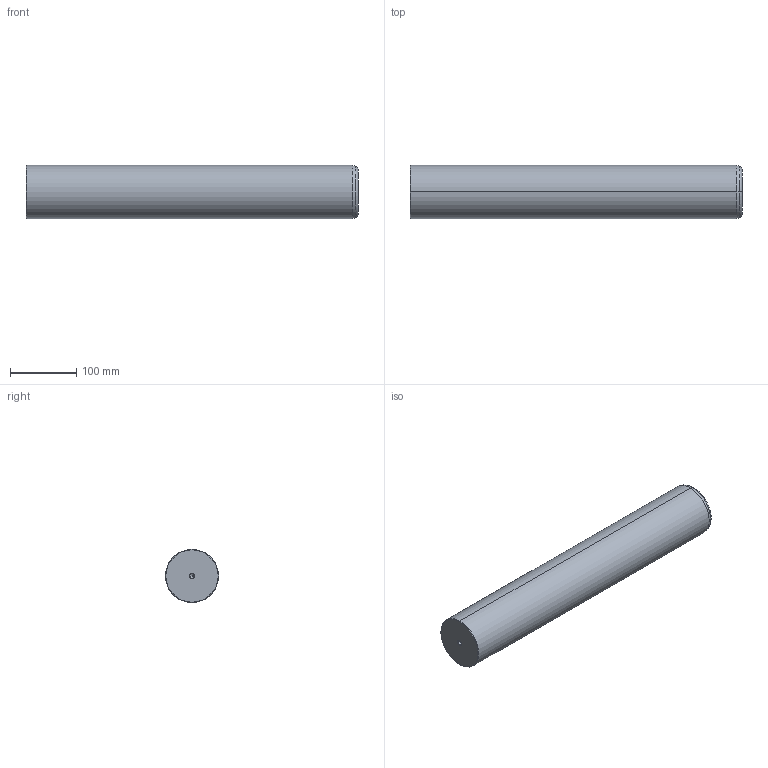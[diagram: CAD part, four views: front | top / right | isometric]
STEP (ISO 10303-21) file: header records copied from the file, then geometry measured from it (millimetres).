
FILE_DESCRIPTION(('CATIA V5 STEP Exchange'),'2;1');
FILE_NAME('C:\Users\Utente\Desktop\IO LAVORO\3D X SITO CF\X SITO\720\720-80x500.stp','2020-12-30T21:20:09+00:00',('none'),('none'),'CATIA Version 5 Release 20 GA (IN-10)','CATIA V5 STEP AP203','none');
FILE_SCHEMA(('CONFIG_CONTROL_DESIGN'));
Length unit declared in the file: millimetre
Products named in the file (1): 720-80x500
Bounding box: 500 x 80 x 80 mm (x, y, z)
Volume: 2508705 mm3; surface area: 135822.6 mm2
Topology: 1 solids, 1 shells, 22 faces, 62 edges, 40 vertices
Faces by surface type: cone 12, cylinder 6, plane 2, torus 2
Entity records: 806 total; most frequent: CARTESIAN_POINT 229, ORIENTED_EDGE 116, DIRECTION 93, EDGE_CURVE 58, AXIS2_PLACEMENT_3D 54, VERTEX_POINT 40, CIRCLE 31, EDGE_LOOP 24
